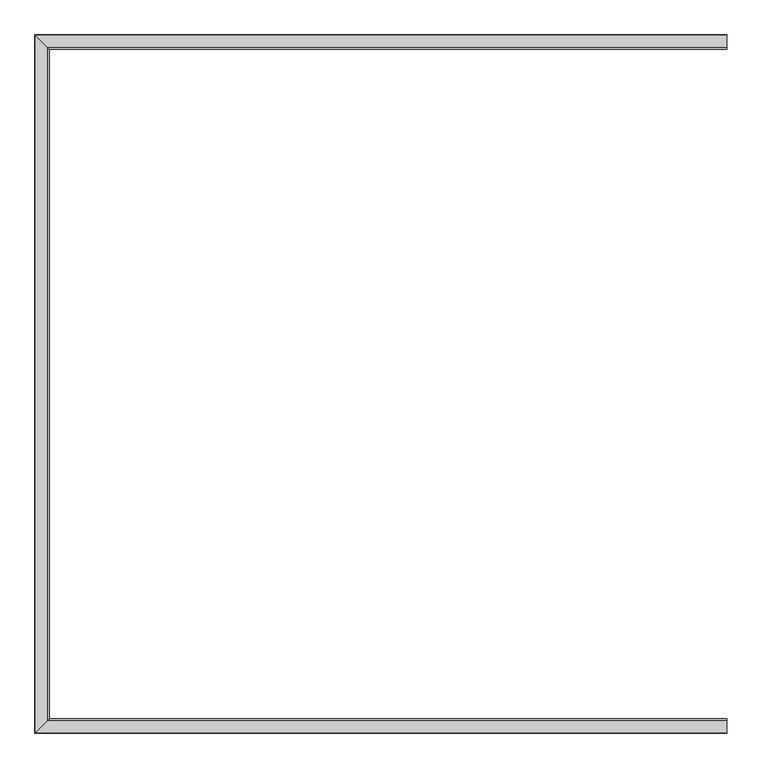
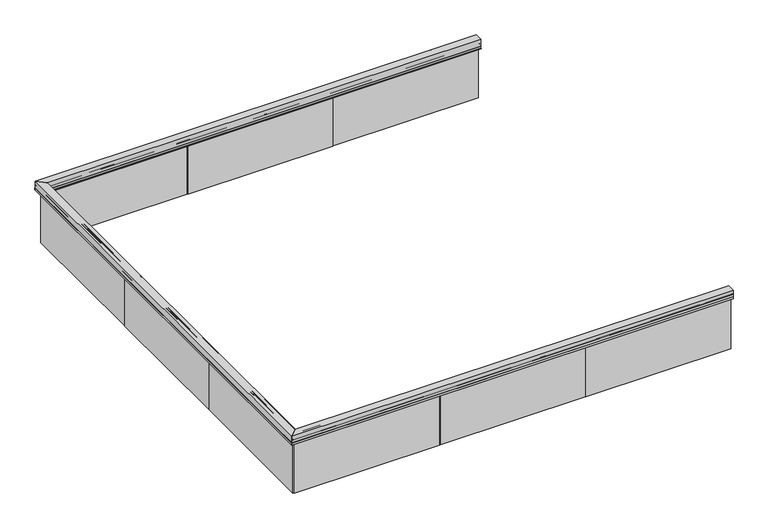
"""IFC4 building model written with IfcOpenShell, lengths in millimetres: railing geometry, Railing - VIVA Railings - Smoke Baffle System - Surface Mount 1 Side Exposed."""

from ifc_helpers import new_model, si_unit, frame, origin, place, context, project, spatial, polyline, circle_curve, ellipse_curve, outline, extrude, source, transform, mapped, element, save
from ifc_brep_helpers import plane_surface, cylinder_surface, advanced_brep


def railing_7ec292f8(model_context):
    return source(origin(), model_context, "Body", "SolidModel", [
        advanced_brep(
        [(14890.8565718, 8380.1322749, -135.8921267), (14890.8565718, 8378.9090912, -135.8921267), (14890.8565718, 8378.9090912, -152.4), (14890.8565718, 8368.0590912, -152.4), (14890.8565718, 8368.0590912, -153.8), (14890.8565718, 8402.9090912, -153.8), (14890.8565718, 8402.9090912, -152.4), (14890.8565718, 8383.4090912, -152.4), (14890.8565718, 8383.4090912, -135.8921267), (14890.8565718, 8382.1313489, -135.8921267), (14890.8565718, 8382.1313489, -115.6469194), (14890.8565718, 8382.1313489, -111.8354806), (14890.8565718, 8382.1313489, -78.1990741), (14890.8565718, 8399.1322749, -78.1990741), (14890.8565718, 8399.1322749, -89.9518892), (14890.8565718, 8409.3629707, -88.0459827), (14890.8565718, 8409.3629707, -78.1990741), (14890.8565718, 8411.8822749, -78.1990741), (14890.8565718, 8414.401579, -78.1990741), (14890.8565718, 8414.401579, -88.0459827), (14890.8565718, 8424.6322749, -89.9518892), (14890.8565718, 8424.6322749, -78.1990741), (14890.8565718, 8441.6332008, -78.1990741), (14890.8565718, 8441.6332008, -111.8354806), (14890.8565718, 8441.6332008, -115.6469194), (14890.8565718, 8441.6332008, -135.8921267), (14890.8565718, 8440.3554585, -135.8921267), (14890.8565718, 8440.3554585, -152.4), (14890.8565718, 8420.8554585, -152.4), (14890.8565718, 8420.8554585, -153.8), (14890.8565718, 8444.8554585, -153.8), (14890.8565718, 8444.8554585, -135.8921267), (14890.8565718, 8443.6322749, -135.8921267), (14890.8565718, 8443.6322749, -76.2), (14890.8565718, 8380.1322749, -76.2), (11265.0065718, 8380.1322749, -135.8921267), (11265.0065718, 8380.1322749, -76.2), (11201.5065718, 8443.6322749, -76.2), (11201.5065718, 8443.6322749, -135.8921267), (11200.2833882, 8444.8554585, -135.8921267), (11200.2833882, 8444.8554585, -153.8), (11224.2833882, 8420.8554585, -153.8), (11224.2833882, 8420.8554585, -152.4), (11204.7833882, 8440.3554585, -152.4), (11204.7833882, 8440.3554585, -135.8921267), (11203.5056459, 8441.6332008, -135.8921267), (11203.5056459, 8441.6332008, -115.6469194), (11203.5056459, 8441.6332008, -111.8354806), (11203.5056459, 8441.6332008, -78.1990741), (11220.5065718, 8424.6322749, -78.1990741), (11220.5065718, 8424.6322749, -89.9518892), (11230.7372677, 8414.401579, -88.0459827), (11230.7372677, 8414.401579, -78.1990741), (11233.2565718, 8411.8822749, -78.1990741), (11235.775876, 8409.3629707, -78.1990741), (11235.775876, 8409.3629707, -88.0459827), (11246.0065718, 8399.1322749, -89.9518892), (11246.0065718, 8399.1322749, -78.1990741), (11263.0074978, 8382.1313489, -78.1990741), (11263.0074978, 8382.1313489, -111.8354806), (11263.0074978, 8382.1313489, -115.6469194), (11263.0074978, 8382.1313489, -135.8921267), (11261.7297555, 8383.4090912, -135.8921267), (11261.7297555, 8383.4090912, -152.4), (11242.2297555, 8402.9090912, -152.4), (11242.2297555, 8402.9090912, -153.8), (11277.0797555, 8368.0590912, -153.8), (11277.0797555, 8368.0590912, -152.4), (11266.2297555, 8378.9090912, -152.4), (11266.2297555, 8378.9090912, -135.8921267)],
        [
            (0, 1),
            (1, 2),
            (2, 3),
            (3, 4),
            (4, 5),
            (5, 6),
            (6, 7),
            (7, 8),
            (8, 9),
            (9, 10),
            (10, 11, circle_curve(frame((14890.8565718, 8385.1335765, -113.7412), z_axis=(1.0, 0.0, 0.0), x_axis=(0.0, -0.6169199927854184, -0.7870258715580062)), 3.5560001)),
            (11, 12),
            (12, 13),
            (13, 14),
            (14, 15),
            (15, 16),
            (16, 17),
            (17, 18),
            (18, 19),
            (19, 20),
            (20, 21),
            (21, 22),
            (22, 23),
            (23, 24, circle_curve(frame((14890.8565718, 8438.6309732, -113.7412), z_axis=(1.0, 0.0, 0.0), x_axis=(0.0, 0.6169199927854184, -0.7870258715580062)), 3.5560001)),
            (24, 25),
            (25, 26),
            (26, 27),
            (27, 28),
            (28, 29),
            (29, 30),
            (30, 31),
            (31, 32),
            (32, 33),
            (33, 34),
            (34, 0),
            (35, 36),
            (36, 37),
            (37, 38),
            (38, 39),
            (39, 40),
            (40, 41),
            (41, 42),
            (42, 43),
            (43, 44),
            (44, 45),
            (45, 46),
            (46, 47, ellipse_curve(frame((11206.5078735, 8438.6309732, -113.7412), z_axis=(-0.707106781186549, -0.707106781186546, 0.0), x_axis=(0.707106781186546, -0.707106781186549, 0.0)), 5.0289436, 3.5560001)),
            (47, 48),
            (48, 49),
            (49, 50),
            (50, 51),
            (51, 52),
            (52, 53),
            (53, 54),
            (54, 55),
            (55, 56),
            (56, 57),
            (57, 58),
            (58, 59),
            (59, 60, ellipse_curve(frame((11260.0052702, 8385.1335765, -113.7412), z_axis=(-0.707106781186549, -0.707106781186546, 0.0), x_axis=(0.707106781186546, -0.707106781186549, 0.0)), 5.0289436, 3.5560001)),
            (60, 61),
            (61, 62),
            (62, 63),
            (63, 64),
            (64, 65),
            (65, 66),
            (66, 67),
            (67, 68),
            (68, 69),
            (69, 35),
            (0, 35),
            (69, 1),
            (68, 2),
            (67, 3),
            (66, 4),
            (65, 5),
            (64, 6),
            (63, 7),
            (62, 8),
            (61, 9),
            (60, 10),
            (59, 11),
            (58, 12),
            (57, 13),
            (56, 14),
            (55, 15),
            (54, 16),
            (53, 17),
            (52, 18),
            (51, 19),
            (50, 20),
            (49, 21),
            (48, 22),
            (47, 23),
            (46, 24),
            (45, 25),
            (44, 26),
            (43, 27),
            (42, 28),
            (41, 29),
            (40, 30),
            (39, 31),
            (38, 32),
            (37, 33),
            (36, 34),
        ],
        [
            plane_surface(frame((14890.8565718, 8411.8822749, -76.2), z_axis=(1.0, 0.0, 0.0), x_axis=(0.0, -1.0, 0.0))),
            plane_surface(frame((11233.2565718, 8411.8822749, -76.2), z_axis=(-0.707106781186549, -0.707106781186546, 0.0), x_axis=(0.707106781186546, -0.707106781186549, 0.0))),
            plane_surface(frame((14890.8565718, 8380.1322749, -135.8921267), z_axis=(0.0, 0.0, 1.0), x_axis=(-1.0, 0.0, 0.0))),
            plane_surface(frame((14890.8565718, 8378.9090912, -135.8921267), z_axis=(0.0, -1.0, 0.0), x_axis=(-1.0, 0.0, 0.0))),
            plane_surface(frame((14890.8565718, 8378.9090912, -152.4), z_axis=(0.0, 0.0, 1.0), x_axis=(-1.0, 0.0, 0.0))),
            plane_surface(frame((14890.8565718, 8368.0590912, -152.4), z_axis=(0.0, -1.0, 0.0), x_axis=(-1.0, 0.0, 0.0))),
            plane_surface(frame((14890.8565718, 8368.0590912, -153.8), z_axis=(0.0, 0.0, -1.0), x_axis=(-1.0, 0.0, 0.0))),
            plane_surface(frame((14890.8565718, 8402.9090912, -153.8), z_axis=(0.0, 1.0, 0.0), x_axis=(-1.0, 0.0, 0.0))),
            plane_surface(frame((14890.8565718, 8402.9090912, -152.4), z_axis=(0.0, 0.0, 1.0), x_axis=(-1.0, 0.0, 0.0))),
            plane_surface(frame((14890.8565718, 8383.4090912, -152.4), z_axis=(0.0, 1.0, 0.0), x_axis=(-1.0, 0.0, 0.0))),
            plane_surface(frame((14890.8565718, 8383.4090912, -135.8921267), z_axis=(0.0, 0.0, 1.0), x_axis=(-1.0, 0.0, 0.0))),
            plane_surface(frame((14890.8565718, 8382.1313489, -135.8921267), z_axis=(0.0, 1.0, 2.3375906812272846e-12), x_axis=(-1.0, 0.0, 0.0))),
            cylinder_surface(frame((14890.8565718, 8385.1335765, -113.7412), z_axis=(1.0, 0.0, 0.0), x_axis=(0.0, -0.6169199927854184, -0.7870258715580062)), 3.5560001),
            plane_surface(frame((14890.8565718, 8382.1313489, -111.8354806), z_axis=(0.0, 1.0, 0.0), x_axis=(-1.0, 0.0, 0.0))),
            plane_surface(frame((14890.8565718, 8382.1313489, -78.1990741), z_axis=(0.0, 0.0, -1.0), x_axis=(-1.0, 0.0, 0.0))),
            plane_surface(frame((14890.8565718, 8399.1322749, -78.1990741), z_axis=(0.0, -1.0, 0.0), x_axis=(-1.0, 0.0, 0.0))),
            plane_surface(frame((14890.8565718, 8399.1322749, -89.9518892), z_axis=(0.0, 0.1831420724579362, -0.9830864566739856), x_axis=(-1.0, 0.0, 0.0))),
            plane_surface(frame((14890.8565718, 8409.3629707, -88.0459827), z_axis=(0.0, 1.0, 0.0), x_axis=(-1.0, 0.0, 0.0))),
            plane_surface(frame((14890.8565718, 8409.3629707, -78.1990741), z_axis=(0.0, 0.0, -1.0), x_axis=(-1.0, 0.0, 0.0))),
            plane_surface(frame((14890.8565718, 8411.8822749, -78.1990741), z_axis=(0.0, 0.0, -1.0), x_axis=(-1.0, 0.0, 0.0))),
            plane_surface(frame((14890.8565718, 8414.401579, -78.1990741), z_axis=(0.0, -1.0, 0.0), x_axis=(-1.0, 0.0, 0.0))),
            plane_surface(frame((14890.8565718, 8414.401579, -88.0459827), z_axis=(0.0, -0.1831420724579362, -0.9830864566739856), x_axis=(-1.0, 0.0, 0.0))),
            plane_surface(frame((14890.8565718, 8424.6322749, -89.9518892), z_axis=(0.0, 1.0, 0.0), x_axis=(-1.0, 0.0, 0.0))),
            plane_surface(frame((14890.8565718, 8424.6322749, -78.1990741), z_axis=(0.0, 0.0, -1.0), x_axis=(-1.0, 0.0, 0.0))),
            plane_surface(frame((14890.8565718, 8441.6332008, -78.1990741), z_axis=(0.0, -1.0, 0.0), x_axis=(-1.0, 0.0, 0.0))),
            cylinder_surface(frame((14890.8565718, 8438.6309732, -113.7412), z_axis=(1.0, 0.0, 0.0), x_axis=(0.0, 0.6169199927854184, -0.7870258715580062)), 3.5560001),
            plane_surface(frame((14890.8565718, 8441.6332008, -115.6469194), z_axis=(0.0, -1.0, 2.3375906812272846e-12), x_axis=(-1.0, 0.0, 0.0))),
            plane_surface(frame((14890.8565718, 8441.6332008, -135.8921267), z_axis=(0.0, 0.0, 1.0), x_axis=(-1.0, 0.0, 0.0))),
            plane_surface(frame((14890.8565718, 8440.3554585, -135.8921267), z_axis=(0.0, -1.0, 0.0), x_axis=(-1.0, 0.0, 0.0))),
            plane_surface(frame((14890.8565718, 8440.3554585, -152.4), z_axis=(0.0, 0.0, 1.0), x_axis=(-1.0, 0.0, 0.0))),
            plane_surface(frame((14890.8565718, 8420.8554585, -152.4), z_axis=(0.0, -1.0, 0.0), x_axis=(-1.0, 0.0, 0.0))),
            plane_surface(frame((14890.8565718, 8420.8554585, -153.8), z_axis=(0.0, 0.0, -1.0), x_axis=(-1.0, 0.0, 0.0))),
            plane_surface(frame((14890.8565718, 8444.8554585, -153.8), z_axis=(0.0, 1.0, 0.0), x_axis=(-1.0, 0.0, 0.0))),
            plane_surface(frame((14890.8565718, 8444.8554585, -135.8921267), z_axis=(0.0, 0.0, 1.0), x_axis=(-1.0, 0.0, 0.0))),
            plane_surface(frame((14890.8565718, 8443.6322749, -135.8921267), z_axis=(0.0, 1.0, 0.0), x_axis=(-1.0, 0.0, 0.0))),
            plane_surface(frame((14890.8565718, 8443.6322749, -76.2), z_axis=(0.0, 0.0, 1.0), x_axis=(-1.0, 0.0, 0.0))),
            plane_surface(frame((14890.8565718, 8380.1322749, -76.2), z_axis=(0.0, -1.0, 0.0), x_axis=(-1.0, 0.0, 0.0))),
        ],
        [
            (0, [[1, 2, 3, 4, 5, 6, 7, 8, 9, 10, 11, 12, 13, 14, 15, 16, 17, 18, 19, 20, 21, 22, 23, 24, 25, 26, 27, 28, 29, 30, 31, 32, 33, 34, 35]]),
            (1, [[36, 37, 38, 39, 40, 41, 42, 43, 44, 45, 46, 47, 48, 49, 50, 51, 52, 53, 54, 55, 56, 57, 58, 59, 60, 61, 62, 63, 64, 65, 66, 67, 68, 69, 70]]),
            (2, [[-1, 71, -70, 72]]),
            (3, [[-2, -72, -69, 73]]),
            (4, [[-3, -73, -68, 74]]),
            (5, [[-4, -74, -67, 75]]),
            (6, [[-5, -75, -66, 76]]),
            (7, [[-6, -76, -65, 77]]),
            (8, [[-7, -77, -64, 78]]),
            (9, [[-8, -78, -63, 79]]),
            (10, [[-9, -79, -62, 80]]),
            (11, [[-10, -80, -61, 81]]),
            (12, [[-11, -81, -60, 82]]),
            (13, [[-12, -82, -59, 83]]),
            (14, [[-13, -83, -58, 84]]),
            (15, [[-14, -84, -57, 85]]),
            (16, [[-15, -85, -56, 86]]),
            (17, [[-16, -86, -55, 87]]),
            (18, [[-17, -87, -54, 88]]),
            (19, [[-18, -88, -53, 89]]),
            (20, [[-19, -89, -52, 90]]),
            (21, [[-20, -90, -51, 91]]),
            (22, [[-21, -91, -50, 92]]),
            (23, [[-22, -92, -49, 93]]),
            (24, [[-23, -93, -48, 94]]),
            (25, [[-24, -94, -47, 95]]),
            (26, [[-25, -95, -46, 96]]),
            (27, [[-26, -96, -45, 97]]),
            (28, [[-27, -97, -44, 98]]),
            (29, [[-28, -98, -43, 99]]),
            (30, [[-29, -99, -42, 100]]),
            (31, [[-30, -100, -41, 101]]),
            (32, [[-31, -101, -40, 102]]),
            (33, [[-32, -102, -39, 103]]),
            (34, [[-33, -103, -38, 104]]),
            (35, [[-34, -104, -37, 105]]),
            (36, [[-35, -105, -36, -71]]),
        ],
    ),
        advanced_brep(
        [(11265.0065718, 8380.1322749, -135.8921267), (11266.2297555, 8378.9090912, -135.8921267), (11266.2297555, 8378.9090912, -152.4), (11277.0797555, 8368.0590912, -152.4), (11277.0797555, 8368.0590912, -153.8), (11242.2297555, 8402.9090912, -153.8), (11242.2297555, 8402.9090912, -152.4), (11261.7297555, 8383.4090912, -152.4), (11261.7297555, 8383.4090912, -135.8921267), (11263.0074978, 8382.1313489, -135.8921267), (11263.0074978, 8382.1313489, -115.6469194), (11263.0074978, 8382.1313489, -111.8354806), (11263.0074978, 8382.1313489, -78.1990741), (11246.0065718, 8399.1322749, -78.1990741), (11246.0065718, 8399.1322749, -89.9518892), (11235.775876, 8409.3629707, -88.0459827), (11235.775876, 8409.3629707, -78.1990741), (11233.2565718, 8411.8822749, -78.1990741), (11230.7372677, 8414.401579, -78.1990741), (11230.7372677, 8414.401579, -88.0459827), (11220.5065718, 8424.6322749, -89.9518892), (11220.5065718, 8424.6322749, -78.1990741), (11203.5056459, 8441.6332008, -78.1990741), (11203.5056459, 8441.6332008, -111.8354806), (11203.5056459, 8441.6332008, -115.6469194), (11203.5056459, 8441.6332008, -135.8921267), (11204.7833882, 8440.3554585, -135.8921267), (11204.7833882, 8440.3554585, -152.4), (11224.2833882, 8420.8554585, -152.4), (11224.2833882, 8420.8554585, -153.8), (11200.2833882, 8444.8554585, -153.8), (11200.2833882, 8444.8554585, -135.8921267), (11201.5065718, 8443.6322749, -135.8921267), (11201.5065718, 8443.6322749, -76.2), (11265.0065718, 8380.1322749, -76.2), (11265.0065718, 4786.0322749, -135.8921267), (11265.0065718, 4786.0322749, -76.2), (11201.5065718, 4722.5322749, -76.2), (11201.5065718, 4722.5322749, -135.8921267), (11200.2833882, 4721.3090912, -135.8921267), (11200.2833882, 4721.3090912, -153.8), (11224.2833882, 4745.3090912, -153.8), (11224.2833882, 4745.3090912, -152.4), (11204.7833882, 4725.8090912, -152.4), (11204.7833882, 4725.8090912, -135.8921267), (11203.5056459, 4724.5313489, -135.8921267), (11203.5056459, 4724.5313489, -115.6469194), (11203.5056459, 4724.5313489, -111.8354806), (11203.5056459, 4724.5313489, -78.1990741), (11220.5065718, 4741.5322749, -78.1990741), (11220.5065718, 4741.5322749, -89.9518892), (11230.7372677, 4751.7629707, -88.0459827), (11230.7372677, 4751.7629707, -78.1990741), (11233.2565718, 4754.2822749, -78.1990741), (11235.775876, 4756.801579, -78.1990741), (11235.775876, 4756.801579, -88.0459827), (11246.0065718, 4767.0322749, -89.9518892), (11246.0065718, 4767.0322749, -78.1990741), (11263.0074978, 4784.0332008, -78.1990741), (11263.0074978, 4784.0332008, -111.8354806), (11263.0074978, 4784.0332008, -115.6469194), (11263.0074978, 4784.0332008, -135.8921267), (11261.7297555, 4782.7554585, -135.8921267), (11261.7297555, 4782.7554585, -152.4), (11242.2297555, 4763.2554585, -152.4), (11242.2297555, 4763.2554585, -153.8), (11277.0797555, 4798.1054585, -153.8), (11277.0797555, 4798.1054585, -152.4), (11266.2297555, 4787.2554585, -152.4), (11266.2297555, 4787.2554585, -135.8921267)],
        [
            (0, 1),
            (1, 2),
            (2, 3),
            (3, 4),
            (4, 5),
            (5, 6),
            (6, 7),
            (7, 8),
            (8, 9),
            (9, 10),
            (10, 11, ellipse_curve(frame((11260.0052702, 8385.1335765, -113.7412), z_axis=(0.707106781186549, 0.707106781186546, 0.0), x_axis=(-0.707106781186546, 0.7071067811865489, 0.0)), 5.0289436, 3.5560001)),
            (11, 12),
            (12, 13),
            (13, 14),
            (14, 15),
            (15, 16),
            (16, 17),
            (17, 18),
            (18, 19),
            (19, 20),
            (20, 21),
            (21, 22),
            (22, 23),
            (23, 24, ellipse_curve(frame((11206.5078735, 8438.6309732, -113.7412), z_axis=(0.707106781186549, 0.707106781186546, 0.0), x_axis=(-0.707106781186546, 0.7071067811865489, 0.0)), 5.0289436, 3.5560001)),
            (24, 25),
            (25, 26),
            (26, 27),
            (27, 28),
            (28, 29),
            (29, 30),
            (30, 31),
            (31, 32),
            (32, 33),
            (33, 34),
            (34, 0),
            (35, 36),
            (36, 37),
            (37, 38),
            (38, 39),
            (39, 40),
            (40, 41),
            (41, 42),
            (42, 43),
            (43, 44),
            (44, 45),
            (45, 46),
            (46, 47, ellipse_curve(frame((11206.5078735, 4727.5335765, -113.7412), z_axis=(0.7071067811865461, -0.707106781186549, 0.0), x_axis=(0.7071067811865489, 0.707106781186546, 0.0)), 5.0289436, 3.5560001)),
            (47, 48),
            (48, 49),
            (49, 50),
            (50, 51),
            (51, 52),
            (52, 53),
            (53, 54),
            (54, 55),
            (55, 56),
            (56, 57),
            (57, 58),
            (58, 59),
            (59, 60, ellipse_curve(frame((11260.0052702, 4781.0309732, -113.7412), z_axis=(0.7071067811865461, -0.707106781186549, 0.0), x_axis=(0.7071067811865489, 0.707106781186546, 0.0)), 5.0289436, 3.5560001)),
            (60, 61),
            (61, 62),
            (62, 63),
            (63, 64),
            (64, 65),
            (65, 66),
            (66, 67),
            (67, 68),
            (68, 69),
            (69, 35),
            (0, 35),
            (69, 1),
            (68, 2),
            (67, 3),
            (66, 4),
            (65, 5),
            (64, 6),
            (63, 7),
            (62, 8),
            (61, 9),
            (60, 10),
            (59, 11),
            (58, 12),
            (57, 13),
            (56, 14),
            (55, 15),
            (54, 16),
            (53, 17),
            (52, 18),
            (51, 19),
            (50, 20),
            (49, 21),
            (48, 22),
            (47, 23),
            (46, 24),
            (45, 25),
            (44, 26),
            (43, 27),
            (42, 28),
            (41, 29),
            (40, 30),
            (39, 31),
            (38, 32),
            (37, 33),
            (36, 34),
        ],
        [
            plane_surface(frame((11233.2565718, 8411.8822749, -76.2), z_axis=(0.707106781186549, 0.707106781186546, 0.0), x_axis=(0.707106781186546, -0.707106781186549, 0.0))),
            plane_surface(frame((11233.2565718, 4754.2822749, -76.2), z_axis=(0.7071067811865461, -0.707106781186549, 0.0), x_axis=(0.707106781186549, 0.7071067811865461, 0.0))),
            plane_surface(frame((11265.0065718, 8380.1322749, -135.8921267), z_axis=(0.0, 0.0, 1.0), x_axis=(0.0, -1.0, 0.0))),
            plane_surface(frame((11266.2297555, 8378.9090912, -135.8921267), z_axis=(1.0, 0.0, 0.0), x_axis=(0.0, -1.0, 0.0))),
            plane_surface(frame((11266.2297555, 8378.9090912, -152.4), z_axis=(0.0, 0.0, 1.0), x_axis=(0.0, -1.0, 0.0))),
            plane_surface(frame((11277.0797555, 8368.0590912, -152.4), z_axis=(1.0, 0.0, 0.0), x_axis=(0.0, -1.0, 0.0))),
            plane_surface(frame((11277.0797555, 8368.0590912, -153.8), z_axis=(0.0, 0.0, -1.0), x_axis=(0.0, -1.0, 0.0))),
            plane_surface(frame((11242.2297555, 8402.9090912, -153.8), z_axis=(-1.0, 0.0, 0.0), x_axis=(0.0, -1.0, 0.0))),
            plane_surface(frame((11242.2297555, 8402.9090912, -152.4), z_axis=(0.0, 0.0, 1.0), x_axis=(0.0, -1.0, 0.0))),
            plane_surface(frame((11261.7297555, 8383.4090912, -152.4), z_axis=(-1.0, 0.0, 0.0), x_axis=(0.0, -1.0, 0.0))),
            plane_surface(frame((11261.7297555, 8383.4090912, -135.8921267), z_axis=(0.0, 0.0, 1.0), x_axis=(0.0, -1.0, 0.0))),
            plane_surface(frame((11263.0074978, 8382.1313489, -135.8921267), z_axis=(-1.0, 0.0, 2.3375906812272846e-12), x_axis=(0.0, -1.0, 0.0))),
            cylinder_surface(frame((11260.0052702, 8411.8822749, -113.7412), z_axis=(0.0, 1.0, 0.0), x_axis=(0.6169199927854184, 0.0, -0.7870258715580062)), 3.5560001),
            plane_surface(frame((11263.0074978, 8382.1313489, -111.8354806), z_axis=(-1.0, 0.0, 0.0), x_axis=(0.0, -1.0, 0.0))),
            plane_surface(frame((11263.0074978, 8382.1313489, -78.1990741), z_axis=(0.0, 0.0, -1.0), x_axis=(0.0, -1.0, 0.0))),
            plane_surface(frame((11246.0065718, 8399.1322749, -78.1990741), z_axis=(1.0, 0.0, 0.0), x_axis=(0.0, -1.0, 0.0))),
            plane_surface(frame((11246.0065718, 8399.1322749, -89.9518892), z_axis=(-0.1831420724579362, 0.0, -0.9830864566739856), x_axis=(0.0, -1.0, 0.0))),
            plane_surface(frame((11235.775876, 8409.3629707, -88.0459827), z_axis=(-1.0, 0.0, 0.0), x_axis=(0.0, -1.0, 0.0))),
            plane_surface(frame((11235.775876, 8409.3629707, -78.1990741), z_axis=(0.0, 0.0, -1.0), x_axis=(0.0, -1.0, 0.0))),
            plane_surface(frame((11233.2565718, 8411.8822749, -78.1990741), z_axis=(0.0, 0.0, -1.0), x_axis=(0.0, -1.0, 0.0))),
            plane_surface(frame((11230.7372677, 8414.401579, -78.1990741), z_axis=(1.0, 0.0, 0.0), x_axis=(0.0, -1.0, 0.0))),
            plane_surface(frame((11230.7372677, 8414.401579, -88.0459827), z_axis=(0.1831420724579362, 0.0, -0.9830864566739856), x_axis=(0.0, -1.0, 0.0))),
            plane_surface(frame((11220.5065718, 8424.6322749, -89.9518892), z_axis=(-1.0, 0.0, 0.0), x_axis=(0.0, -1.0, 0.0))),
            plane_surface(frame((11220.5065718, 8424.6322749, -78.1990741), z_axis=(0.0, 0.0, -1.0), x_axis=(0.0, -1.0, 0.0))),
            plane_surface(frame((11203.5056459, 8441.6332008, -78.1990741), z_axis=(1.0, 0.0, 0.0), x_axis=(0.0, -1.0, 0.0))),
            cylinder_surface(frame((11206.5078735, 8411.8822749, -113.7412), z_axis=(0.0, 1.0, 0.0), x_axis=(-0.6169199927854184, 0.0, -0.7870258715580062)), 3.5560001),
            plane_surface(frame((11203.5056459, 8441.6332008, -115.6469194), z_axis=(1.0, 0.0, 2.3375906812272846e-12), x_axis=(0.0, -1.0, 0.0))),
            plane_surface(frame((11203.5056459, 8441.6332008, -135.8921267), z_axis=(0.0, 0.0, 1.0), x_axis=(0.0, -1.0, 0.0))),
            plane_surface(frame((11204.7833882, 8440.3554585, -135.8921267), z_axis=(1.0, 0.0, 0.0), x_axis=(0.0, -1.0, 0.0))),
            plane_surface(frame((11204.7833882, 8440.3554585, -152.4), z_axis=(0.0, 0.0, 1.0), x_axis=(0.0, -1.0, 0.0))),
            plane_surface(frame((11224.2833882, 8420.8554585, -152.4), z_axis=(1.0, 0.0, 0.0), x_axis=(0.0, -1.0, 0.0))),
            plane_surface(frame((11224.2833882, 8420.8554585, -153.8), z_axis=(0.0, 0.0, -1.0), x_axis=(0.0, -1.0, 0.0))),
            plane_surface(frame((11200.2833882, 8444.8554585, -153.8), z_axis=(-1.0, 0.0, 0.0), x_axis=(0.0, -1.0, 0.0))),
            plane_surface(frame((11200.2833882, 8444.8554585, -135.8921267), z_axis=(0.0, 0.0, 1.0), x_axis=(0.0, -1.0, 0.0))),
            plane_surface(frame((11201.5065718, 8443.6322749, -135.8921267), z_axis=(-1.0, 0.0, 0.0), x_axis=(0.0, -1.0, 0.0))),
            plane_surface(frame((11201.5065718, 8443.6322749, -76.2), z_axis=(0.0, 0.0, 1.0), x_axis=(0.0, -1.0, 0.0))),
            plane_surface(frame((11265.0065718, 8380.1322749, -76.2), z_axis=(1.0, 0.0, 0.0), x_axis=(0.0, -1.0, 0.0))),
        ],
        [
            (0, [[1, 2, 3, 4, 5, 6, 7, 8, 9, 10, 11, 12, 13, 14, 15, 16, 17, 18, 19, 20, 21, 22, 23, 24, 25, 26, 27, 28, 29, 30, 31, 32, 33, 34, 35]]),
            (1, [[36, 37, 38, 39, 40, 41, 42, 43, 44, 45, 46, 47, 48, 49, 50, 51, 52, 53, 54, 55, 56, 57, 58, 59, 60, 61, 62, 63, 64, 65, 66, 67, 68, 69, 70]]),
            (2, [[-1, 71, -70, 72]]),
            (3, [[-2, -72, -69, 73]]),
            (4, [[-3, -73, -68, 74]]),
            (5, [[-4, -74, -67, 75]]),
            (6, [[-5, -75, -66, 76]]),
            (7, [[-6, -76, -65, 77]]),
            (8, [[-7, -77, -64, 78]]),
            (9, [[-8, -78, -63, 79]]),
            (10, [[-9, -79, -62, 80]]),
            (11, [[-10, -80, -61, 81]]),
            (12, [[-11, -81, -60, 82]]),
            (13, [[-12, -82, -59, 83]]),
            (14, [[-13, -83, -58, 84]]),
            (15, [[-14, -84, -57, 85]]),
            (16, [[-15, -85, -56, 86]]),
            (17, [[-16, -86, -55, 87]]),
            (18, [[-17, -87, -54, 88]]),
            (19, [[-18, -88, -53, 89]]),
            (20, [[-19, -89, -52, 90]]),
            (21, [[-20, -90, -51, 91]]),
            (22, [[-21, -91, -50, 92]]),
            (23, [[-22, -92, -49, 93]]),
            (24, [[-23, -93, -48, 94]]),
            (25, [[-24, -94, -47, 95]]),
            (26, [[-25, -95, -46, 96]]),
            (27, [[-26, -96, -45, 97]]),
            (28, [[-27, -97, -44, 98]]),
            (29, [[-28, -98, -43, 99]]),
            (30, [[-29, -99, -42, 100]]),
            (31, [[-30, -100, -41, 101]]),
            (32, [[-31, -101, -40, 102]]),
            (33, [[-32, -102, -39, 103]]),
            (34, [[-33, -103, -38, 104]]),
            (35, [[-34, -104, -37, 105]]),
            (36, [[-35, -105, -36, -71]]),
        ],
    ),
        advanced_brep(
        [(11265.0065718, 4786.0322749, -135.8921267), (11266.2297555, 4787.2554585, -135.8921267), (11266.2297555, 4787.2554585, -152.4), (11277.0797555, 4798.1054585, -152.4), (11277.0797555, 4798.1054585, -153.8), (11242.2297555, 4763.2554585, -153.8), (11242.2297555, 4763.2554585, -152.4), (11261.7297555, 4782.7554585, -152.4), (11261.7297555, 4782.7554585, -135.8921267), (11263.0074978, 4784.0332008, -135.8921267), (11263.0074978, 4784.0332008, -115.6469194), (11263.0074978, 4784.0332008, -111.8354806), (11263.0074978, 4784.0332008, -78.1990741), (11246.0065718, 4767.0322749, -78.1990741), (11246.0065718, 4767.0322749, -89.9518892), (11235.775876, 4756.801579, -88.0459827), (11235.775876, 4756.801579, -78.1990741), (11233.2565718, 4754.2822749, -78.1990741), (11230.7372677, 4751.7629707, -78.1990741), (11230.7372677, 4751.7629707, -88.0459827), (11220.5065718, 4741.5322749, -89.9518892), (11220.5065718, 4741.5322749, -78.1990741), (11203.5056459, 4724.5313489, -78.1990741), (11203.5056459, 4724.5313489, -111.8354806), (11203.5056459, 4724.5313489, -115.6469194), (11203.5056459, 4724.5313489, -135.8921267), (11204.7833882, 4725.8090912, -135.8921267), (11204.7833882, 4725.8090912, -152.4), (11224.2833882, 4745.3090912, -152.4), (11224.2833882, 4745.3090912, -153.8), (11200.2833882, 4721.3090912, -153.8), (11200.2833882, 4721.3090912, -135.8921267), (11201.5065718, 4722.5322749, -135.8921267), (11201.5065718, 4722.5322749, -76.2), (11265.0065718, 4786.0322749, -76.2), (14890.8565718, 4786.0322749, -135.8921267), (14890.8565718, 4786.0322749, -76.2), (14890.8565718, 4722.5322749, -76.2), (14890.8565718, 4722.5322749, -135.8921267), (14890.8565718, 4721.3090912, -135.8921267), (14890.8565718, 4721.3090912, -153.8), (14890.8565718, 4745.3090912, -153.8), (14890.8565718, 4745.3090912, -152.4), (14890.8565718, 4725.8090912, -152.4), (14890.8565718, 4725.8090912, -135.8921267), (14890.8565718, 4724.5313489, -135.8921267), (14890.8565718, 4724.5313489, -115.6469194), (14890.8565718, 4724.5313489, -111.8354806), (14890.8565718, 4724.5313489, -78.1990741), (14890.8565718, 4741.5322749, -78.1990741), (14890.8565718, 4741.5322749, -89.9518892), (14890.8565718, 4751.7629707, -88.0459827), (14890.8565718, 4751.7629707, -78.1990741), (14890.8565718, 4754.2822749, -78.1990741), (14890.8565718, 4756.801579, -78.1990741), (14890.8565718, 4756.801579, -88.0459827), (14890.8565718, 4767.0322749, -89.9518892), (14890.8565718, 4767.0322749, -78.1990741), (14890.8565718, 4784.0332008, -78.1990741), (14890.8565718, 4784.0332008, -111.8354806), (14890.8565718, 4784.0332008, -115.6469194), (14890.8565718, 4784.0332008, -135.8921267), (14890.8565718, 4782.7554585, -135.8921267), (14890.8565718, 4782.7554585, -152.4), (14890.8565718, 4763.2554585, -152.4), (14890.8565718, 4763.2554585, -153.8), (14890.8565718, 4798.1054585, -153.8), (14890.8565718, 4798.1054585, -152.4), (14890.8565718, 4787.2554585, -152.4), (14890.8565718, 4787.2554585, -135.8921267)],
        [
            (0, 1),
            (1, 2),
            (2, 3),
            (3, 4),
            (4, 5),
            (5, 6),
            (6, 7),
            (7, 8),
            (8, 9),
            (9, 10),
            (10, 11, ellipse_curve(frame((11260.0052702, 4781.0309732, -113.7412), z_axis=(-0.7071067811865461, 0.707106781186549, 0.0), x_axis=(-0.7071067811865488, -0.7071067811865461, 0.0)), 5.0289436, 3.5560001)),
            (11, 12),
            (12, 13),
            (13, 14),
            (14, 15),
            (15, 16),
            (16, 17),
            (17, 18),
            (18, 19),
            (19, 20),
            (20, 21),
            (21, 22),
            (22, 23),
            (23, 24, ellipse_curve(frame((11206.5078735, 4727.5335765, -113.7412), z_axis=(-0.7071067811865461, 0.707106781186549, 0.0), x_axis=(-0.7071067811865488, -0.7071067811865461, 0.0)), 5.0289436, 3.5560001)),
            (24, 25),
            (25, 26),
            (26, 27),
            (27, 28),
            (28, 29),
            (29, 30),
            (30, 31),
            (31, 32),
            (32, 33),
            (33, 34),
            (34, 0),
            (35, 36),
            (36, 37),
            (37, 38),
            (38, 39),
            (39, 40),
            (40, 41),
            (41, 42),
            (42, 43),
            (43, 44),
            (44, 45),
            (45, 46),
            (46, 47, circle_curve(frame((14890.8565718, 4727.5335765, -113.7412), z_axis=(1.0, 0.0, 0.0), x_axis=(0.0, -0.6169199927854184, -0.7870258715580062)), 3.5560001)),
            (47, 48),
            (48, 49),
            (49, 50),
            (50, 51),
            (51, 52),
            (52, 53),
            (53, 54),
            (54, 55),
            (55, 56),
            (56, 57),
            (57, 58),
            (58, 59),
            (59, 60, circle_curve(frame((14890.8565718, 4781.0309732, -113.7412), z_axis=(1.0, 0.0, 0.0), x_axis=(0.0, 0.6169199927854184, -0.7870258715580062)), 3.5560001)),
            (60, 61),
            (61, 62),
            (62, 63),
            (63, 64),
            (64, 65),
            (65, 66),
            (66, 67),
            (67, 68),
            (68, 69),
            (69, 35),
            (0, 35),
            (69, 1),
            (68, 2),
            (67, 3),
            (66, 4),
            (65, 5),
            (64, 6),
            (63, 7),
            (62, 8),
            (61, 9),
            (60, 10),
            (59, 11),
            (58, 12),
            (57, 13),
            (56, 14),
            (55, 15),
            (54, 16),
            (53, 17),
            (52, 18),
            (51, 19),
            (50, 20),
            (49, 21),
            (48, 22),
            (47, 23),
            (46, 24),
            (45, 25),
            (44, 26),
            (43, 27),
            (42, 28),
            (41, 29),
            (40, 30),
            (39, 31),
            (38, 32),
            (37, 33),
            (36, 34),
        ],
        [
            plane_surface(frame((11233.2565718, 4754.2822749, -76.2), z_axis=(-0.7071067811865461, 0.707106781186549, 0.0), x_axis=(0.707106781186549, 0.7071067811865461, 0.0))),
            plane_surface(frame((14890.8565718, 4754.2822749, -76.2), z_axis=(1.0, 0.0, 0.0), x_axis=(0.0, 1.0, 0.0))),
            plane_surface(frame((11265.0065718, 4786.0322749, -135.8921267), z_axis=(0.0, 0.0, 1.0), x_axis=(1.0, 0.0, 0.0))),
            plane_surface(frame((11266.2297555, 4787.2554585, -135.8921267), z_axis=(0.0, 1.0, 0.0), x_axis=(1.0, 0.0, 0.0))),
            plane_surface(frame((11266.2297555, 4787.2554585, -152.4), z_axis=(0.0, 0.0, 1.0), x_axis=(1.0, 0.0, 0.0))),
            plane_surface(frame((11277.0797555, 4798.1054585, -152.4), z_axis=(0.0, 1.0, 0.0), x_axis=(1.0, 0.0, 0.0))),
            plane_surface(frame((11277.0797555, 4798.1054585, -153.8), z_axis=(0.0, 0.0, -1.0), x_axis=(1.0, 0.0, 0.0))),
            plane_surface(frame((11242.2297555, 4763.2554585, -153.8), z_axis=(0.0, -1.0, 0.0), x_axis=(1.0, 0.0, 0.0))),
            plane_surface(frame((11242.2297555, 4763.2554585, -152.4), z_axis=(0.0, 0.0, 1.0), x_axis=(1.0, 0.0, 0.0))),
            plane_surface(frame((11261.7297555, 4782.7554585, -152.4), z_axis=(0.0, -1.0, 0.0), x_axis=(1.0, 0.0, 0.0))),
            plane_surface(frame((11261.7297555, 4782.7554585, -135.8921267), z_axis=(0.0, 0.0, 1.0), x_axis=(1.0, 0.0, 0.0))),
            plane_surface(frame((11263.0074978, 4784.0332008, -135.8921267), z_axis=(0.0, -1.0, 2.3375906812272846e-12), x_axis=(1.0, 0.0, 0.0))),
            cylinder_surface(frame((11233.2565718, 4781.0309732, -113.7412), z_axis=(-1.0, 0.0, 0.0), x_axis=(0.0, 0.6169199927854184, -0.7870258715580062)), 3.5560001),
            plane_surface(frame((11263.0074978, 4784.0332008, -111.8354806), z_axis=(0.0, -1.0, 0.0), x_axis=(1.0, 0.0, 0.0))),
            plane_surface(frame((11263.0074978, 4784.0332008, -78.1990741), z_axis=(0.0, 0.0, -1.0), x_axis=(1.0, 0.0, 0.0))),
            plane_surface(frame((11246.0065718, 4767.0322749, -78.1990741), z_axis=(0.0, 1.0, 0.0), x_axis=(1.0, 0.0, 0.0))),
            plane_surface(frame((11246.0065718, 4767.0322749, -89.9518892), z_axis=(0.0, -0.1831420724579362, -0.9830864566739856), x_axis=(1.0, 0.0, 0.0))),
            plane_surface(frame((11235.775876, 4756.801579, -88.0459827), z_axis=(0.0, -1.0, 0.0), x_axis=(1.0, 0.0, 0.0))),
            plane_surface(frame((11235.775876, 4756.801579, -78.1990741), z_axis=(0.0, 0.0, -1.0), x_axis=(1.0, 0.0, 0.0))),
            plane_surface(frame((11233.2565718, 4754.2822749, -78.1990741), z_axis=(0.0, 0.0, -1.0), x_axis=(1.0, 0.0, 0.0))),
            plane_surface(frame((11230.7372677, 4751.7629707, -78.1990741), z_axis=(0.0, 1.0, 0.0), x_axis=(1.0, 0.0, 0.0))),
            plane_surface(frame((11230.7372677, 4751.7629707, -88.0459827), z_axis=(0.0, 0.1831420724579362, -0.9830864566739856), x_axis=(1.0, 0.0, 0.0))),
            plane_surface(frame((11220.5065718, 4741.5322749, -89.9518892), z_axis=(0.0, -1.0, 0.0), x_axis=(1.0, 0.0, 0.0))),
            plane_surface(frame((11220.5065718, 4741.5322749, -78.1990741), z_axis=(0.0, 0.0, -1.0), x_axis=(1.0, 0.0, 0.0))),
            plane_surface(frame((11203.5056459, 4724.5313489, -78.1990741), z_axis=(0.0, 1.0, 0.0), x_axis=(1.0, 0.0, 0.0))),
            cylinder_surface(frame((11233.2565718, 4727.5335765, -113.7412), z_axis=(-1.0, 0.0, 0.0), x_axis=(0.0, -0.6169199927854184, -0.7870258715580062)), 3.5560001),
            plane_surface(frame((11203.5056459, 4724.5313489, -115.6469194), z_axis=(0.0, 1.0, 2.3375906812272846e-12), x_axis=(1.0, 0.0, 0.0))),
            plane_surface(frame((11203.5056459, 4724.5313489, -135.8921267), z_axis=(0.0, 0.0, 1.0), x_axis=(1.0, 0.0, 0.0))),
            plane_surface(frame((11204.7833882, 4725.8090912, -135.8921267), z_axis=(0.0, 1.0, 0.0), x_axis=(1.0, 0.0, 0.0))),
            plane_surface(frame((11204.7833882, 4725.8090912, -152.4), z_axis=(0.0, 0.0, 1.0), x_axis=(1.0, 0.0, 0.0))),
            plane_surface(frame((11224.2833882, 4745.3090912, -152.4), z_axis=(0.0, 1.0, 0.0), x_axis=(1.0, 0.0, 0.0))),
            plane_surface(frame((11224.2833882, 4745.3090912, -153.8), z_axis=(0.0, 0.0, -1.0), x_axis=(1.0, 0.0, 0.0))),
            plane_surface(frame((11200.2833882, 4721.3090912, -153.8), z_axis=(0.0, -1.0, 0.0), x_axis=(1.0, 0.0, 0.0))),
            plane_surface(frame((11200.2833882, 4721.3090912, -135.8921267), z_axis=(0.0, 0.0, 1.0), x_axis=(1.0, 0.0, 0.0))),
            plane_surface(frame((11201.5065718, 4722.5322749, -135.8921267), z_axis=(0.0, -1.0, 0.0), x_axis=(1.0, 0.0, 0.0))),
            plane_surface(frame((11201.5065718, 4722.5322749, -76.2), z_axis=(0.0, 0.0, 1.0), x_axis=(1.0, 0.0, 0.0))),
            plane_surface(frame((11265.0065718, 4786.0322749, -76.2), z_axis=(0.0, 1.0, 0.0), x_axis=(1.0, 0.0, 0.0))),
        ],
        [
            (0, [[1, 2, 3, 4, 5, 6, 7, 8, 9, 10, 11, 12, 13, 14, 15, 16, 17, 18, 19, 20, 21, 22, 23, 24, 25, 26, 27, 28, 29, 30, 31, 32, 33, 34, 35]]),
            (1, [[36, 37, 38, 39, 40, 41, 42, 43, 44, 45, 46, 47, 48, 49, 50, 51, 52, 53, 54, 55, 56, 57, 58, 59, 60, 61, 62, 63, 64, 65, 66, 67, 68, 69, 70]]),
            (2, [[-1, 71, -70, 72]]),
            (3, [[-2, -72, -69, 73]]),
            (4, [[-3, -73, -68, 74]]),
            (5, [[-4, -74, -67, 75]]),
            (6, [[-5, -75, -66, 76]]),
            (7, [[-6, -76, -65, 77]]),
            (8, [[-7, -77, -64, 78]]),
            (9, [[-8, -78, -63, 79]]),
            (10, [[-9, -79, -62, 80]]),
            (11, [[-10, -80, -61, 81]]),
            (12, [[-11, -81, -60, 82]]),
            (13, [[-12, -82, -59, 83]]),
            (14, [[-13, -83, -58, 84]]),
            (15, [[-14, -84, -57, 85]]),
            (16, [[-15, -85, -56, 86]]),
            (17, [[-16, -86, -55, 87]]),
            (18, [[-17, -87, -54, 88]]),
            (19, [[-18, -88, -53, 89]]),
            (20, [[-19, -89, -52, 90]]),
            (21, [[-20, -90, -51, 91]]),
            (22, [[-21, -91, -50, 92]]),
            (23, [[-22, -92, -49, 93]]),
            (24, [[-23, -93, -48, 94]]),
            (25, [[-24, -94, -47, 95]]),
            (26, [[-25, -95, -46, 96]]),
            (27, [[-26, -96, -45, 97]]),
            (28, [[-27, -97, -44, 98]]),
            (29, [[-28, -98, -43, 99]]),
            (30, [[-29, -99, -42, 100]]),
            (31, [[-30, -100, -41, 101]]),
            (32, [[-31, -101, -40, 102]]),
            (33, [[-32, -102, -39, 103]]),
            (34, [[-33, -103, -38, 104]]),
            (35, [[-34, -104, -37, 105]]),
            (36, [[-35, -105, -36, -71]]),
        ],
    ),
        extrude(outline(polyline([(13675.1663831, 4759.0447749), (14888.0646184, 4759.0447749), (14888.0646184, 4749.5197749), (13675.1663831, 4749.5197749), (13675.1663831, 4759.0447749)])), frame((0.0, 0.0, -609.203125), z_axis=(0.0, 0.0, 1.0), x_axis=(1.0, 0.0, 0.0)), (0.0, 0.0, 1.0), 499.853125),
        extrude(outline(polyline([(12455.9663831, 4759.0447749), (13668.8646184, 4759.0447749), (13668.8646184, 4749.5197749), (12455.9663831, 4749.5197749), (12455.9663831, 4759.0447749)])), frame((0.0, 0.0, -609.203125), z_axis=(0.0, 0.0, 1.0), x_axis=(1.0, 0.0, 0.0)), (0.0, 0.0, 1.0), 499.853125),
        extrude(outline(polyline([(11236.7663831, 4759.0447749), (12449.6646184, 4759.0447749), (12449.6646184, 4749.5197749), (11236.7663831, 4749.5197749), (11236.7663831, 4759.0447749)])), frame((0.0, 0.0, -609.203125), z_axis=(0.0, 0.0, 1.0), x_axis=(1.0, 0.0, 0.0)), (0.0, 0.0, 1.0), 499.853125),
        extrude(outline(polyline([(11238.0190718, 5969.9724636), (11238.0190718, 4757.0742283), (11228.4940718, 4757.0742283), (11228.4940718, 5969.9724636), (11238.0190718, 5969.9724636)])), frame((0.0, 0.0, -609.203125), z_axis=(0.0, 0.0, 1.0), x_axis=(1.0, 0.0, 0.0)), (0.0, 0.0, 1.0), 499.853125),
        extrude(outline(polyline([(11238.0190718, 7189.1724636), (11238.0190718, 5976.2742283), (11228.4940718, 5976.2742283), (11228.4940718, 7189.1724636), (11238.0190718, 7189.1724636)])), frame((0.0, 0.0, -609.203125), z_axis=(0.0, 0.0, 1.0), x_axis=(1.0, 0.0, 0.0)), (0.0, 0.0, 1.0), 499.853125),
        extrude(outline(polyline([(11238.0190718, 8408.3724636), (11238.0190718, 7195.4742283), (11228.4940718, 7195.4742283), (11228.4940718, 8408.3724636), (11238.0190718, 8408.3724636)])), frame((0.0, 0.0, -609.203125), z_axis=(0.0, 0.0, 1.0), x_axis=(1.0, 0.0, 0.0)), (0.0, 0.0, 1.0), 499.853125),
        extrude(outline(polyline([(12448.9467606, 8407.1197749), (11236.0485252, 8407.1197749), (11236.0485252, 8416.6447749), (12448.9467606, 8416.6447749), (12448.9467606, 8407.1197749)])), frame((0.0, 0.0, -609.203125), z_axis=(0.0, 0.0, 1.0), x_axis=(1.0, 0.0, 0.0)), (0.0, 0.0, 1.0), 499.853125),
        extrude(outline(polyline([(13668.1467606, 8407.1197749), (12455.2485252, 8407.1197749), (12455.2485252, 8416.6447749), (13668.1467606, 8416.6447749), (13668.1467606, 8407.1197749)])), frame((0.0, 0.0, -609.203125), z_axis=(0.0, 0.0, 1.0), x_axis=(1.0, 0.0, 0.0)), (0.0, 0.0, 1.0), 499.853125),
        extrude(outline(polyline([(14887.3467606, 8407.1197749), (13674.4485252, 8407.1197749), (13674.4485252, 8416.6447749), (14887.3467606, 8416.6447749), (14887.3467606, 8407.1197749)])), frame((0.0, 0.0, -609.203125), z_axis=(0.0, 0.0, 1.0), x_axis=(1.0, 0.0, 0.0)), (0.0, 0.0, 1.0), 499.853125),
    ])


if __name__ == "__main__":
    model = new_model("IFC4")
    model_context = context("Model", 3, world=origin())
    ifc_project = project(units=[si_unit("LENGTHUNIT", "METRE", prefix="MILLI")], contexts=[model_context])
    site = spatial("IfcSite", under=ifc_project)
    building = spatial("IfcBuilding", under=site)
    placement = place(None, origin())
    railing_shape = railing_7ec292f8(model_context)
    element("IfcRailing", 1, ObjectType="Railing - VIVA Railings - Smoke Baffle System - Surface Mount 1 Side Exposed", at=placement, inside=building, context=model_context, shape_type="MappedRepresentation", body=[
        mapped(railing_shape, transform((0.0, 0.0, 0.0), x_axis=(1.0, 0.0, 0.0), y_axis=(0.0, 1.0, 0.0), z_axis=(0.0, 0.0, 1.0))),
    ])
    save(model, "model.ifc")
